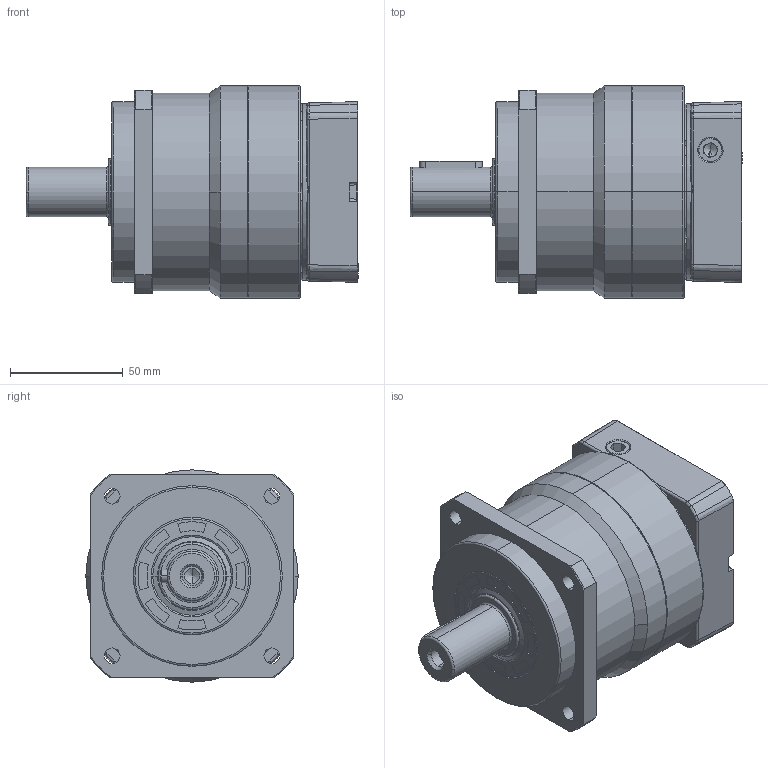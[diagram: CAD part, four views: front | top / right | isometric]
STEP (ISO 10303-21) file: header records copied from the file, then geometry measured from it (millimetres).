
FILE_DESCRIPTION (( 'STEP AP214' ), '1' );
FILE_NAME ('VRB090-L1-S2-P1 19-70-90-M5.STEP', '2021-04-24T06:44:05', ( 'User' ), ( 'china' ), 'SwSTEP 2.0', 'SolidWorks 2016', '' );
FILE_SCHEMA (( 'AUTOMOTIVE_DESIGN' ));
Length unit declared in the file: millimetre
Products named in the file (12): 输入轴锁紧环 23-52-14_2; 输入法兰VRB090-70_2; 输入端壳体VRB090D.; A倰す瑩 6-28_7; 蚐猾30526_7; 怀堤俴陎殤VRB090-5D_1; 输出内齿圈壳体VRB090D-Z108_1; VRB090-L1-S2-P1 19-70-90-M5; hexagon socket head cap screws gb_GB_FASTENER_SCREWS_HSHCS M4X16-N; hex socket set screws with cone point gb_GB_FASTENER_SCREWS_HSCP M12X10-N_1; hexagon socket head cap screws gb_GB_FASTENER_SCREWS_HSHCS M5X16-N; 输入太阳齿轮VRB090-5D-19
Assembly tree (22 placements, depth 2):
  VRB090-L1-S2-P1 19-70-90-M5
    输出内齿圈壳体VRB090D-Z108_1
    怀堤俴陎殤VRB090-5D_1
    蚐猾30526_7
    A倰す瑩 6-28_7
    输入端壳体VRB090D.
    输入法兰VRB090-70_2
    输入轴锁紧环 23-52-14_2
    输入太阳齿轮VRB090-5D-19
    hexagon socket head cap screws gb_GB_FASTENER_SCREWS_HSHCS M5X16-N  x7
    hex socket set screws with cone point gb_GB_FASTENER_SCREWS_HSCP M12X10-N_1
    hexagon socket head cap screws gb_GB_FASTENER_SCREWS_HSHCS M4X16-N  x6
Bounding box: 147 x 94 x 94 mm (x, y, z)
Volume: 609216.4 mm3; surface area: 121396.8 mm2
Topology: 22 solids, 22 shells, 1360 faces, 3479 edges, 2213 vertices
Faces by surface type: plane 606, bspline 264, cylinder 231, cone 200, torus 59
Entity records: 54856 total; most frequent: CARTESIAN_POINT 17183, ORIENTED_EDGE 5670, DIRECTION 4596, EDGE_CURVE 2835, VERTEX_POINT 1838, AXIS2_PLACEMENT_3D 1599, LINE 1398, VECTOR 1398
